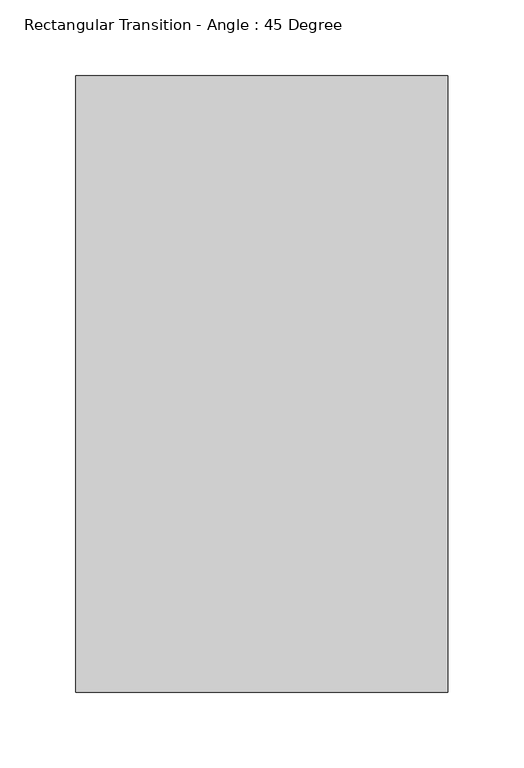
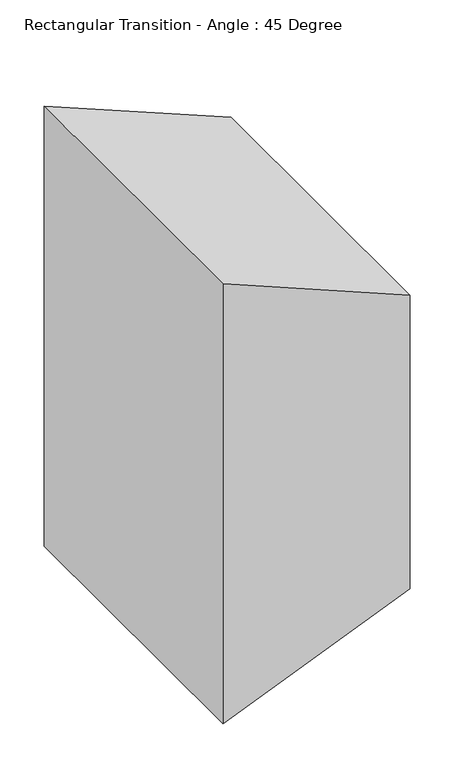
"""IFC4 building model written with IfcOpenShell, lengths in millimetres: duct fitting geometry, Rectangular Transition - Angle : 45 Degree."""

from ifc_helpers import new_model, si_unit, frame, origin, place, context, project, spatial, polyline, outline, extrude, source, transform, mapped, element, save


def rectangular_transition_angle_45_degree_5d946329(model_context):
    return source(origin(), model_context, "Body", "SweptSolid", [
        extrude(outline(polyline([(304.8, 0.0), (-304.8, 0.0), (-203.2, 245.2840979), (203.2, 245.2840979), (304.8, 0.0)])), frame((0.0, -203.2, 0.0), z_axis=(0.0, 1.0, 0.0), x_axis=(0.0, 0.0, 1.0)), (0.0, 0.0, 1.0), 406.4),
    ])


if __name__ == "__main__":
    model = new_model("IFC4")
    model_context = context("Model", 3, world=origin())
    ifc_project = project(units=[si_unit("LENGTHUNIT", "METRE", prefix="MILLI")], contexts=[model_context])
    site = spatial("IfcSite", under=ifc_project)
    building = spatial("IfcBuilding", under=site)
    placement = place(None, origin())
    rectangular_transition_angle_45_degree_shape = rectangular_transition_angle_45_degree_5d946329(model_context)
    element("IfcDuctFitting", 1, ObjectType="Rectangular Transition - Angle : 45 Degree", at=placement, inside=building, context=model_context, shape_type="MappedRepresentation", body=[
        mapped(rectangular_transition_angle_45_degree_shape, transform((0.0, 0.0, 0.0), x_axis=(1.0, 0.0, 0.0), y_axis=(0.0, 1.0, 0.0), z_axis=(0.0, 0.0, 1.0))),
    ])
    save(model, "model.ifc")
